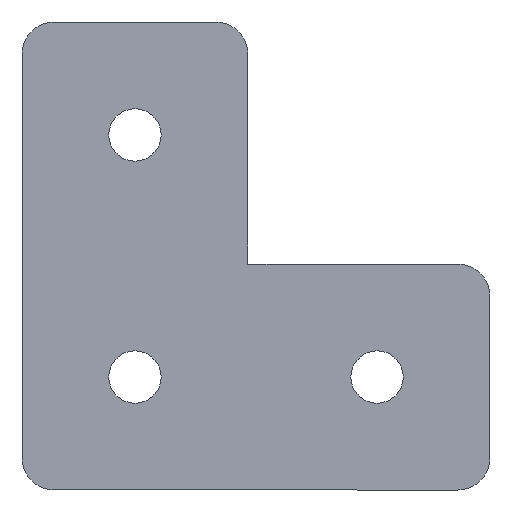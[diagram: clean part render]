
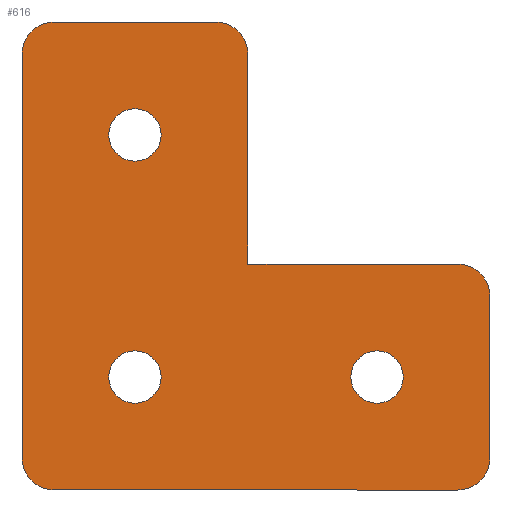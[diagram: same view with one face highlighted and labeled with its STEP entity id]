
A CAD part, front view. The second image highlights one B-rep face of the part: STEP entity #616.
In plain terms, the highlighted planar face has unit normal (0, -1, 0).
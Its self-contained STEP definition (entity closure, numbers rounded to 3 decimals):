
#5 = VECTOR ( 'NONE', #497, 1000. ) ;
#6 = DIRECTION ( 'NONE',  ( 0., 1., 0. ) ) ;
#11 = EDGE_CURVE ( 'NONE', #172, #66, #460, .T. ) ;
#13 = ORIENTED_EDGE ( 'NONE', *, *, #11, .T. ) ;
#14 = ORIENTED_EDGE ( 'NONE', *, *, #365, .F. ) ;
#15 = LINE ( 'NONE', #75, #556 ) ;
#26 = CARTESIAN_POINT ( 'NONE',  ( -7., 0., 22. ) ) ;
#29 = EDGE_CURVE ( 'NONE', #207, #514, #310, .T. ) ;
#37 = CARTESIAN_POINT ( 'NONE',  ( 7., 0., 20. ) ) ;
#40 = CARTESIAN_POINT ( 'NONE',  ( -7., 0., -7. ) ) ;
#47 = DIRECTION ( 'NONE',  ( 0., -1., 0. ) ) ;
#50 = DIRECTION ( 'NONE',  ( 0., 1., 0. ) ) ;
#52 = VECTOR ( 'NONE', #301, 1000. ) ;
#53 = EDGE_LOOP ( 'NONE', ( #521, #485 ) ) ;
#56 = ORIENTED_EDGE ( 'NONE', *, *, #635, .T. ) ;
#66 = VERTEX_POINT ( 'NONE', #511 ) ;
#67 = DIRECTION ( 'NONE',  ( 0., 1., 0. ) ) ;
#69 = ORIENTED_EDGE ( 'NONE', *, *, #269, .F. ) ;
#75 = CARTESIAN_POINT ( 'NONE',  ( 7., 0., 22. ) ) ;
#76 = DIRECTION ( 'NONE',  ( 0., 0., 1. ) ) ;
#77 = CARTESIAN_POINT ( 'NONE',  ( 7., 0., 7. ) ) ;
#79 = CARTESIAN_POINT ( 'NONE',  ( 5., 0., 22. ) ) ;
#85 = CARTESIAN_POINT ( 'NONE',  ( -5., 0., 20. ) ) ;
#86 = AXIS2_PLACEMENT_3D ( 'NONE', #276, #641, #331 ) ;
#98 = DIRECTION ( 'NONE',  ( 0., 0., 1. ) ) ;
#116 = VECTOR ( 'NONE', #228, 1000. ) ;
#128 = ORIENTED_EDGE ( 'NONE', *, *, #145, .F. ) ;
#131 = DIRECTION ( 'NONE',  ( 0., -1., 0. ) ) ;
#133 = AXIS2_PLACEMENT_3D ( 'NONE', #175, #534, #214 ) ;
#135 = DIRECTION ( 'NONE',  ( 0., 1., 0. ) ) ;
#142 = DIRECTION ( 'NONE',  ( 0., 0., -1. ) ) ;
#145 = EDGE_CURVE ( 'NONE', #302, #376, #423, .T. ) ;
#160 = CIRCLE ( 'NONE', #407, 1.625 ) ;
#161 = ORIENTED_EDGE ( 'NONE', *, *, #623, .T. ) ;
#169 = AXIS2_PLACEMENT_3D ( 'NONE', #560, #47, #634 ) ;
#172 = VERTEX_POINT ( 'NONE', #283 ) ;
#175 = CARTESIAN_POINT ( 'NONE',  ( -5., 0., -5. ) ) ;
#177 = AXIS2_PLACEMENT_3D ( 'NONE', #373, #67, #432 ) ;
#187 = ORIENTED_EDGE ( 'NONE', *, *, #383, .F. ) ;
#194 = CARTESIAN_POINT ( 'NONE',  ( 20., 0., -7. ) ) ;
#205 = ORIENTED_EDGE ( 'NONE', *, *, #29, .T. ) ;
#206 = CARTESIAN_POINT ( 'NONE',  ( 0., 0., 15. ) ) ;
#207 = VERTEX_POINT ( 'NONE', #447 ) ;
#214 = DIRECTION ( 'NONE',  ( 0., 0., -1. ) ) ;
#217 = DIRECTION ( 'NONE',  ( 0., -1., 0. ) ) ;
#223 = DIRECTION ( 'NONE',  ( 0., 0., -1. ) ) ;
#224 = CIRCLE ( 'NONE', #246, 2. ) ;
#225 = EDGE_CURVE ( 'NONE', #409, #248, #539, .T. ) ;
#227 = CARTESIAN_POINT ( 'NONE',  ( 20., 0., -5. ) ) ;
#228 = DIRECTION ( 'NONE',  ( 0., 0., -1. ) ) ;
#235 = AXIS2_PLACEMENT_3D ( 'NONE', #445, #135, #499 ) ;
#244 = VERTEX_POINT ( 'NONE', #37 ) ;
#246 = AXIS2_PLACEMENT_3D ( 'NONE', #227, #600, #286 ) ;
#248 = VERTEX_POINT ( 'NONE', #390 ) ;
#250 = FACE_OUTER_BOUND ( 'NONE', #253, .T. ) ;
#253 = EDGE_LOOP ( 'NONE', ( #187, #56, #552, #325, #69, #427, #14, #161, #293, #451, #128 ) ) ;
#255 = AXIS2_PLACEMENT_3D ( 'NONE', #643, #217, #382 ) ;
#261 = EDGE_LOOP ( 'NONE', ( #205, #674 ) ) ;
#267 = VECTOR ( 'NONE', #335, 1000. ) ;
#269 = EDGE_CURVE ( 'NONE', #395, #248, #380, .T. ) ;
#273 = VERTEX_POINT ( 'NONE', #399 ) ;
#276 = CARTESIAN_POINT ( 'NONE',  ( 15., 0., 0. ) ) ;
#278 = VERTEX_POINT ( 'NONE', #508 ) ;
#282 = CARTESIAN_POINT ( 'NONE',  ( -7., 0., -5. ) ) ;
#283 = CARTESIAN_POINT ( 'NONE',  ( 0., 0., -1.625 ) ) ;
#286 = DIRECTION ( 'NONE',  ( 0., 0., -1. ) ) ;
#288 = DIRECTION ( 'NONE',  ( 0., 1., 0. ) ) ;
#290 = LINE ( 'NONE', #26, #267 ) ;
#292 = CARTESIAN_POINT ( 'NONE',  ( 22., 0., 5. ) ) ;
#293 = ORIENTED_EDGE ( 'NONE', *, *, #474, .F. ) ;
#301 = DIRECTION ( 'NONE',  ( -1., 0., 0. ) ) ;
#302 = VERTEX_POINT ( 'NONE', #562 ) ;
#305 = LINE ( 'NONE', #664, #52 ) ;
#310 = CIRCLE ( 'NONE', #472, 1.625 ) ;
#311 = CARTESIAN_POINT ( 'NONE',  ( 0., 0., 0. ) ) ;
#318 = CIRCLE ( 'NONE', #177, 1.625 ) ;
#325 = ORIENTED_EDGE ( 'NONE', *, *, #225, .T. ) ;
#331 = DIRECTION ( 'NONE',  ( 0., 0., 1. ) ) ;
#335 = DIRECTION ( 'NONE',  ( 1., 0., 0. ) ) ;
#338 = CIRCLE ( 'NONE', #86, 1.625 ) ;
#344 = DIRECTION ( 'NONE',  ( 0., 0., 1. ) ) ;
#352 = CARTESIAN_POINT ( 'NONE',  ( 20., 0., 7. ) ) ;
#356 = CIRCLE ( 'NONE', #235, 1.625 ) ;
#365 = EDGE_CURVE ( 'NONE', #523, #478, #305, .T. ) ;
#366 = FACE_BOUND ( 'NONE', #53, .T. ) ;
#373 = CARTESIAN_POINT ( 'NONE',  ( 0., 0., 0. ) ) ;
#375 = EDGE_CURVE ( 'NONE', #631, #376, #582, .T. ) ;
#376 = VERTEX_POINT ( 'NONE', #352 ) ;
#380 = LINE ( 'NONE', #40, #515 ) ;
#382 = DIRECTION ( 'NONE',  ( 0., 0., -1. ) ) ;
#383 = EDGE_CURVE ( 'NONE', #244, #302, #15, .T. ) ;
#387 = FACE_BOUND ( 'NONE', #596, .T. ) ;
#390 = CARTESIAN_POINT ( 'NONE',  ( -7., 0., 20. ) ) ;
#393 = AXIS2_PLACEMENT_3D ( 'NONE', #442, #131, #496 ) ;
#394 = EDGE_CURVE ( 'NONE', #409, #417, #290, .T. ) ;
#395 = VERTEX_POINT ( 'NONE', #282 ) ;
#397 = CARTESIAN_POINT ( 'NONE',  ( 0., 0., 13.375 ) ) ;
#399 = CARTESIAN_POINT ( 'NONE',  ( 22., 0., -5. ) ) ;
#407 = AXIS2_PLACEMENT_3D ( 'NONE', #601, #288, #652 ) ;
#409 = VERTEX_POINT ( 'NONE', #647 ) ;
#417 = VERTEX_POINT ( 'NONE', #79 ) ;
#423 = LINE ( 'NONE', #77, #5 ) ;
#425 = FACE_BOUND ( 'NONE', #261, .T. ) ;
#427 = ORIENTED_EDGE ( 'NONE', *, *, #654, .T. ) ;
#432 = DIRECTION ( 'NONE',  ( 0., 0., 1. ) ) ;
#433 = AXIS2_PLACEMENT_3D ( 'NONE', #85, #452, #142 ) ;
#442 = CARTESIAN_POINT ( 'NONE',  ( 20., 0., 5. ) ) ;
#445 = CARTESIAN_POINT ( 'NONE',  ( 15., 0., 0. ) ) ;
#447 = CARTESIAN_POINT ( 'NONE',  ( 0., 0., 16.625 ) ) ;
#451 = ORIENTED_EDGE ( 'NONE', *, *, #375, .T. ) ;
#452 = DIRECTION ( 'NONE',  ( 0., -1., 0. ) ) ;
#460 = CIRCLE ( 'NONE', #480, 1.625 ) ;
#465 = EDGE_CURVE ( 'NONE', #514, #207, #160, .T. ) ;
#470 = CIRCLE ( 'NONE', #169, 2. ) ;
#472 = AXIS2_PLACEMENT_3D ( 'NONE', #206, #50, #98 ) ;
#474 = EDGE_CURVE ( 'NONE', #631, #273, #572, .T. ) ;
#478 = VERTEX_POINT ( 'NONE', #555 ) ;
#480 = AXIS2_PLACEMENT_3D ( 'NONE', #311, #6, #76 ) ;
#485 = ORIENTED_EDGE ( 'NONE', *, *, #622, .T. ) ;
#496 = DIRECTION ( 'NONE',  ( 0., 0., -1. ) ) ;
#497 = DIRECTION ( 'NONE',  ( 1., 0., 0. ) ) ;
#499 = DIRECTION ( 'NONE',  ( 0., 0., 1. ) ) ;
#508 = CARTESIAN_POINT ( 'NONE',  ( 15., 0., 1.625 ) ) ;
#511 = CARTESIAN_POINT ( 'NONE',  ( 0., 0., 1.625 ) ) ;
#514 = VERTEX_POINT ( 'NONE', #397 ) ;
#515 = VECTOR ( 'NONE', #344, 1000. ) ;
#521 = ORIENTED_EDGE ( 'NONE', *, *, #676, .T. ) ;
#523 = VERTEX_POINT ( 'NONE', #194 ) ;
#534 = DIRECTION ( 'NONE',  ( 0., -1., 0. ) ) ;
#539 = CIRCLE ( 'NONE', #433, 2. ) ;
#543 = CIRCLE ( 'NONE', #133, 2. ) ;
#549 = CARTESIAN_POINT ( 'NONE',  ( 22., 0., 7. ) ) ;
#552 = ORIENTED_EDGE ( 'NONE', *, *, #394, .F. ) ;
#554 = CARTESIAN_POINT ( 'NONE',  ( 15., 0., -1.625 ) ) ;
#555 = CARTESIAN_POINT ( 'NONE',  ( -5., 0., -7. ) ) ;
#556 = VECTOR ( 'NONE', #223, 1000. ) ;
#560 = CARTESIAN_POINT ( 'NONE',  ( 5., 0., 20. ) ) ;
#562 = CARTESIAN_POINT ( 'NONE',  ( 7., 0., 7. ) ) ;
#571 = ORIENTED_EDGE ( 'NONE', *, *, #636, .T. ) ;
#572 = LINE ( 'NONE', #549, #116 ) ;
#582 = CIRCLE ( 'NONE', #393, 2. ) ;
#595 = PLANE ( 'NONE',  #255 ) ;
#596 = EDGE_LOOP ( 'NONE', ( #571, #13 ) ) ;
#600 = DIRECTION ( 'NONE',  ( 0., -1., 0. ) ) ;
#601 = CARTESIAN_POINT ( 'NONE',  ( 0., 0., 15. ) ) ;
#616 = ADVANCED_FACE ( 'NONE', ( #425, #366, #387, #250 ), #595, .T. ) ;
#622 = EDGE_CURVE ( 'NONE', #630, #278, #356, .T. ) ;
#623 = EDGE_CURVE ( 'NONE', #523, #273, #224, .T. ) ;
#630 = VERTEX_POINT ( 'NONE', #554 ) ;
#631 = VERTEX_POINT ( 'NONE', #292 ) ;
#634 = DIRECTION ( 'NONE',  ( 0., 0., -1. ) ) ;
#635 = EDGE_CURVE ( 'NONE', #244, #417, #470, .T. ) ;
#636 = EDGE_CURVE ( 'NONE', #66, #172, #318, .T. ) ;
#641 = DIRECTION ( 'NONE',  ( 0., 1., 0. ) ) ;
#643 = CARTESIAN_POINT ( 'NONE',  ( 0., 0., 0. ) ) ;
#647 = CARTESIAN_POINT ( 'NONE',  ( -5., 0., 22. ) ) ;
#652 = DIRECTION ( 'NONE',  ( 0., 0., 1. ) ) ;
#654 = EDGE_CURVE ( 'NONE', #395, #478, #543, .T. ) ;
#664 = CARTESIAN_POINT ( 'NONE',  ( 22., 0., -7. ) ) ;
#674 = ORIENTED_EDGE ( 'NONE', *, *, #465, .T. ) ;
#676 = EDGE_CURVE ( 'NONE', #278, #630, #338, .T. ) ;
